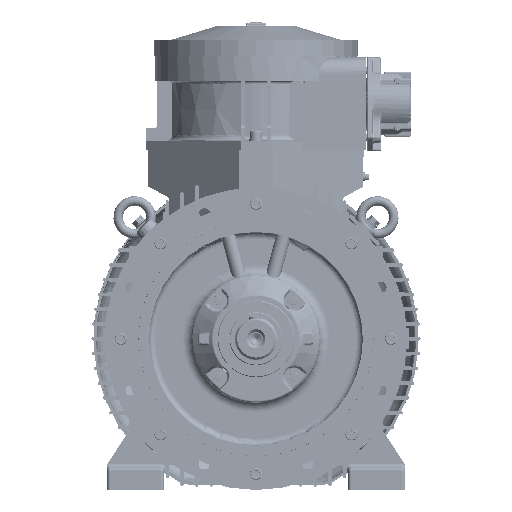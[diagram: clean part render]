
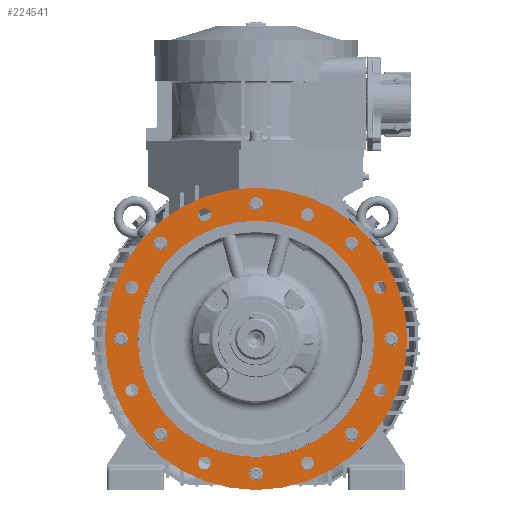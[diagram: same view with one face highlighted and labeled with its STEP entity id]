
A CAD part, left-side view. The second image highlights one B-rep face of the part: STEP entity #224541.
In plain terms, the highlighted planar face has unit normal (-1, 0, 0).
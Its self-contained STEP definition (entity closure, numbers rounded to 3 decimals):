
#38784=PLANE('',#236956);
#42672=CIRCLE('',#236856,9.5);
#42674=CIRCLE('',#236859,9.5);
#42676=CIRCLE('',#236862,9.5);
#42678=CIRCLE('',#236865,9.5);
#42680=CIRCLE('',#236868,9.5);
#42682=CIRCLE('',#236871,9.5);
#42684=CIRCLE('',#236874,9.5);
#42686=CIRCLE('',#236877,9.5);
#42687=CIRCLE('',#236879,175.919);
#42692=CIRCLE('',#236890,10.);
#42696=CIRCLE('',#236897,10.);
#42700=CIRCLE('',#236904,10.);
#42704=CIRCLE('',#236911,10.);
#42708=CIRCLE('',#236918,10.);
#42712=CIRCLE('',#236925,10.);
#42716=CIRCLE('',#236932,10.);
#42720=CIRCLE('',#236939,10.);
#42727=CIRCLE('',#236957,225.);
#81833=ORIENTED_EDGE('',*,*,#108883,.F.);
#81834=ORIENTED_EDGE('',*,*,#108850,.T.);
#81835=ORIENTED_EDGE('',*,*,#108846,.T.);
#81836=ORIENTED_EDGE('',*,*,#108842,.T.);
#81837=ORIENTED_EDGE('',*,*,#108838,.T.);
#81838=ORIENTED_EDGE('',*,*,#108834,.T.);
#81839=ORIENTED_EDGE('',*,*,#108830,.T.);
#81840=ORIENTED_EDGE('',*,*,#108826,.T.);
#81841=ORIENTED_EDGE('',*,*,#108822,.T.);
#81842=ORIENTED_EDGE('',*,*,#108817,.T.);
#81843=ORIENTED_EDGE('',*,*,#108816,.F.);
#81844=ORIENTED_EDGE('',*,*,#108814,.F.);
#81845=ORIENTED_EDGE('',*,*,#108812,.F.);
#81846=ORIENTED_EDGE('',*,*,#108810,.F.);
#81847=ORIENTED_EDGE('',*,*,#108808,.F.);
#81848=ORIENTED_EDGE('',*,*,#108806,.F.);
#81849=ORIENTED_EDGE('',*,*,#108804,.F.);
#81850=ORIENTED_EDGE('',*,*,#108802,.F.);
#108802=EDGE_CURVE('',#125285,#125285,#42672,.T.);
#108804=EDGE_CURVE('',#125287,#125287,#42674,.T.);
#108806=EDGE_CURVE('',#125289,#125289,#42676,.T.);
#108808=EDGE_CURVE('',#125291,#125291,#42678,.T.);
#108810=EDGE_CURVE('',#125293,#125293,#42680,.T.);
#108812=EDGE_CURVE('',#125295,#125295,#42682,.T.);
#108814=EDGE_CURVE('',#125297,#125297,#42684,.T.);
#108816=EDGE_CURVE('',#125299,#125299,#42686,.T.);
#108817=EDGE_CURVE('',#125300,#125300,#42687,.T.);
#108822=EDGE_CURVE('',#125304,#125304,#42692,.T.);
#108826=EDGE_CURVE('',#125306,#125306,#42696,.T.);
#108830=EDGE_CURVE('',#125308,#125308,#42700,.T.);
#108834=EDGE_CURVE('',#125310,#125310,#42704,.T.);
#108838=EDGE_CURVE('',#125312,#125312,#42708,.T.);
#108842=EDGE_CURVE('',#125314,#125314,#42712,.T.);
#108846=EDGE_CURVE('',#125316,#125316,#42716,.T.);
#108850=EDGE_CURVE('',#125318,#125318,#42720,.T.);
#108883=EDGE_CURVE('',#125344,#125344,#42727,.T.);
#125285=VERTEX_POINT('',#338049);
#125287=VERTEX_POINT('',#338054);
#125289=VERTEX_POINT('',#338059);
#125291=VERTEX_POINT('',#338064);
#125293=VERTEX_POINT('',#338069);
#125295=VERTEX_POINT('',#338074);
#125297=VERTEX_POINT('',#338079);
#125299=VERTEX_POINT('',#338084);
#125300=VERTEX_POINT('',#338087);
#125304=VERTEX_POINT('',#338102);
#125306=VERTEX_POINT('',#338111);
#125308=VERTEX_POINT('',#338120);
#125310=VERTEX_POINT('',#338129);
#125312=VERTEX_POINT('',#338138);
#125314=VERTEX_POINT('',#338147);
#125316=VERTEX_POINT('',#338156);
#125318=VERTEX_POINT('',#338165);
#125344=VERTEX_POINT('',#338235);
#139004=EDGE_LOOP('',(#81833));
#139005=EDGE_LOOP('',(#81834));
#139006=EDGE_LOOP('',(#81835));
#139007=EDGE_LOOP('',(#81836));
#139008=EDGE_LOOP('',(#81837));
#139009=EDGE_LOOP('',(#81838));
#139010=EDGE_LOOP('',(#81839));
#139011=EDGE_LOOP('',(#81840));
#139012=EDGE_LOOP('',(#81841));
#139013=EDGE_LOOP('',(#81842));
#139014=EDGE_LOOP('',(#81843));
#139015=EDGE_LOOP('',(#81844));
#139016=EDGE_LOOP('',(#81845));
#139017=EDGE_LOOP('',(#81846));
#139018=EDGE_LOOP('',(#81847));
#139019=EDGE_LOOP('',(#81848));
#139020=EDGE_LOOP('',(#81849));
#139021=EDGE_LOOP('',(#81850));
#151058=FACE_BOUND('',#139004,.T.);
#151059=FACE_BOUND('',#139005,.T.);
#151060=FACE_BOUND('',#139006,.T.);
#151061=FACE_BOUND('',#139007,.T.);
#151062=FACE_BOUND('',#139008,.T.);
#151063=FACE_BOUND('',#139009,.T.);
#151064=FACE_BOUND('',#139010,.T.);
#151065=FACE_BOUND('',#139011,.T.);
#151066=FACE_BOUND('',#139012,.T.);
#151067=FACE_BOUND('',#139013,.T.);
#151068=FACE_BOUND('',#139014,.T.);
#151069=FACE_BOUND('',#139015,.T.);
#151070=FACE_BOUND('',#139016,.T.);
#151071=FACE_BOUND('',#139017,.T.);
#151072=FACE_BOUND('',#139018,.T.);
#151073=FACE_BOUND('',#139019,.T.);
#151074=FACE_BOUND('',#139020,.T.);
#151075=FACE_BOUND('',#139021,.T.);
#224541=ADVANCED_FACE('',(#151058,#151059,#151060,#151061,#151062,#151063,
#151064,#151065,#151066,#151067,#151068,#151069,#151070,#151071,#151072,
#151073,#151074,#151075),#38784,.F.);
#236856=AXIS2_PLACEMENT_3D('',#338048,#274883,#274884);
#236859=AXIS2_PLACEMENT_3D('',#338053,#274889,#274890);
#236862=AXIS2_PLACEMENT_3D('',#338058,#274895,#274896);
#236865=AXIS2_PLACEMENT_3D('',#338063,#274901,#274902);
#236868=AXIS2_PLACEMENT_3D('',#338068,#274907,#274908);
#236871=AXIS2_PLACEMENT_3D('',#338073,#274913,#274914);
#236874=AXIS2_PLACEMENT_3D('',#338078,#274919,#274920);
#236877=AXIS2_PLACEMENT_3D('',#338083,#274925,#274926);
#236879=AXIS2_PLACEMENT_3D('',#338086,#274929,#274930);
#236890=AXIS2_PLACEMENT_3D('',#338101,#274951,#274952);
#236897=AXIS2_PLACEMENT_3D('',#338110,#274965,#274966);
#236904=AXIS2_PLACEMENT_3D('',#338119,#274979,#274980);
#236911=AXIS2_PLACEMENT_3D('',#338128,#274993,#274994);
#236918=AXIS2_PLACEMENT_3D('',#338137,#275007,#275008);
#236925=AXIS2_PLACEMENT_3D('',#338146,#275021,#275022);
#236932=AXIS2_PLACEMENT_3D('',#338155,#275035,#275036);
#236939=AXIS2_PLACEMENT_3D('',#338164,#275049,#275050);
#236956=AXIS2_PLACEMENT_3D('',#338233,#275109,#275110);
#236957=AXIS2_PLACEMENT_3D('',#338234,#275111,#275112);
#274883=DIRECTION('',(-1.,0.,0.));
#274884=DIRECTION('',(0.,-1.,0.));
#274889=DIRECTION('',(-1.,0.,0.));
#274890=DIRECTION('',(0.,-1.,0.));
#274895=DIRECTION('',(-1.,0.,0.));
#274896=DIRECTION('',(0.,-1.,0.));
#274901=DIRECTION('',(-1.,0.,0.));
#274902=DIRECTION('',(0.,-1.,0.));
#274907=DIRECTION('',(-1.,0.,0.));
#274908=DIRECTION('',(0.,-1.,0.));
#274913=DIRECTION('',(-1.,0.,0.));
#274914=DIRECTION('',(0.,-1.,0.));
#274919=DIRECTION('',(-1.,0.,0.));
#274920=DIRECTION('',(0.,-1.,0.));
#274925=DIRECTION('',(-1.,0.,0.));
#274926=DIRECTION('',(0.,-1.,0.));
#274929=DIRECTION('',(1.,0.,0.));
#274930=DIRECTION('',(0.,0.,1.));
#274951=DIRECTION('',(1.,0.,0.));
#274952=DIRECTION('',(0.,0.,-1.));
#274965=DIRECTION('',(1.,0.,0.));
#274966=DIRECTION('',(0.,0.,-1.));
#274979=DIRECTION('',(1.,0.,0.));
#274980=DIRECTION('',(0.,0.,-1.));
#274993=DIRECTION('',(1.,0.,0.));
#274994=DIRECTION('',(0.,0.,-1.));
#275007=DIRECTION('',(1.,0.,0.));
#275008=DIRECTION('',(0.,0.,-1.));
#275021=DIRECTION('',(1.,0.,0.));
#275022=DIRECTION('',(0.,0.,-1.));
#275035=DIRECTION('',(1.,0.,0.));
#275036=DIRECTION('',(0.,0.,-1.));
#275049=DIRECTION('',(1.,0.,0.));
#275050=DIRECTION('',(0.,0.,-1.));
#275109=DIRECTION('',(1.,0.,0.));
#275110=DIRECTION('',(0.,0.,1.));
#275111=DIRECTION('',(1.,0.,0.));
#275112=DIRECTION('',(0.,0.,1.));
#338048=CARTESIAN_POINT('',(-84.5,184.776,-76.537));
#338049=CARTESIAN_POINT('',(-84.5,175.276,-76.537));
#338053=CARTESIAN_POINT('',(-84.5,76.537,-184.776));
#338054=CARTESIAN_POINT('',(-84.5,67.037,-184.776));
#338058=CARTESIAN_POINT('',(-84.5,-76.537,-184.776));
#338059=CARTESIAN_POINT('',(-84.5,-86.037,-184.776));
#338063=CARTESIAN_POINT('',(-84.5,-184.776,-76.537));
#338064=CARTESIAN_POINT('',(-84.5,-194.276,-76.537));
#338068=CARTESIAN_POINT('',(-84.5,-184.776,76.537));
#338069=CARTESIAN_POINT('',(-84.5,-194.276,76.537));
#338073=CARTESIAN_POINT('',(-84.5,-76.537,184.776));
#338074=CARTESIAN_POINT('',(-84.5,-86.037,184.776));
#338078=CARTESIAN_POINT('',(-84.5,76.537,184.776));
#338079=CARTESIAN_POINT('',(-84.5,67.037,184.776));
#338083=CARTESIAN_POINT('',(-84.5,184.776,76.537));
#338084=CARTESIAN_POINT('',(-84.5,175.276,76.537));
#338086=CARTESIAN_POINT('',(-84.5,0.,0.));
#338087=CARTESIAN_POINT('',(-84.5,0.,175.919));
#338101=CARTESIAN_POINT('',(-84.5,142.128,142.128));
#338102=CARTESIAN_POINT('',(-84.5,142.128,132.128));
#338110=CARTESIAN_POINT('',(-84.5,201.,0.));
#338111=CARTESIAN_POINT('',(-84.5,201.,-10.));
#338119=CARTESIAN_POINT('',(-84.5,142.128,-142.128));
#338120=CARTESIAN_POINT('',(-84.5,142.128,-152.128));
#338128=CARTESIAN_POINT('',(-84.5,0.,-201.));
#338129=CARTESIAN_POINT('',(-84.5,0.,-211.));
#338137=CARTESIAN_POINT('',(-84.5,-142.128,-142.128));
#338138=CARTESIAN_POINT('',(-84.5,-142.128,-152.128));
#338146=CARTESIAN_POINT('',(-84.5,-201.,0.));
#338147=CARTESIAN_POINT('',(-84.5,-201.,-10.));
#338155=CARTESIAN_POINT('',(-84.5,-142.128,142.128));
#338156=CARTESIAN_POINT('',(-84.5,-142.128,132.128));
#338164=CARTESIAN_POINT('',(-84.5,0.,201.));
#338165=CARTESIAN_POINT('',(-84.5,0.,191.));
#338233=CARTESIAN_POINT('',(-84.5,0.,242.195));
#338234=CARTESIAN_POINT('',(-84.5,0.,0.));
#338235=CARTESIAN_POINT('',(-84.5,0.,225.));
